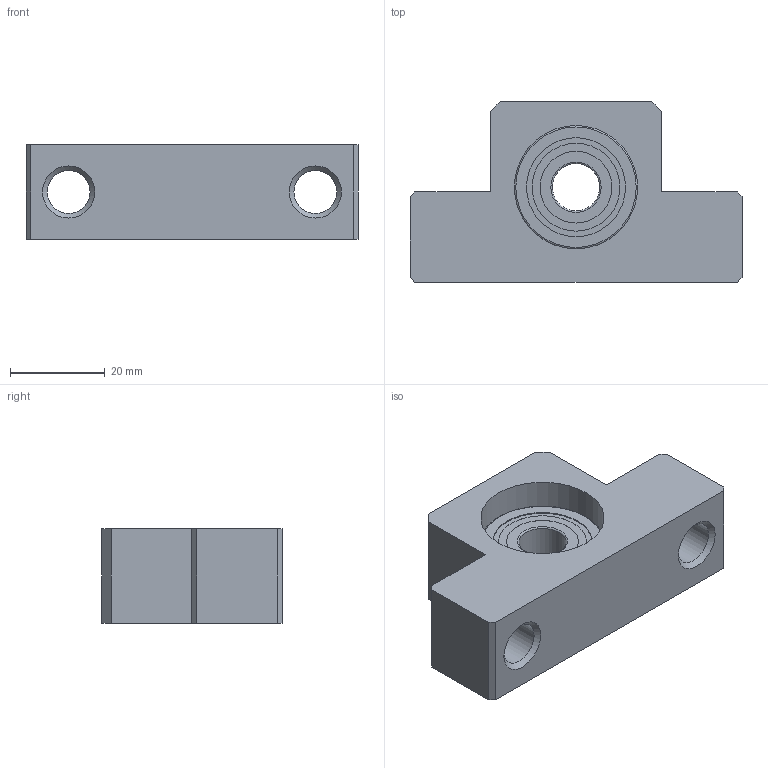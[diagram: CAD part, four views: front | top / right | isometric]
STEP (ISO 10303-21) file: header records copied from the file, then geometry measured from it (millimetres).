
FILE_DESCRIPTION(/* description */ ('STEP AP214'),/* implementation_level */ '2;1');
FILE_NAME(/* name */ 'EF12L',/* time_stamp */ '2026-09-17T13:09:16+02:00',/* author */ ('License CC BY-ND 4.0'),/* organization */ ('CADENAS'),/* preprocessor_version */ 'ST-DEVELOPER v20',/* originating_system */ 'PARTsolutions',/* authorisation */ ' ');
FILE_SCHEMA (('AUTOMOTIVE_DESIGN {1 0 10303 214 3 1 1}'));
Length unit declared in the file: millimetre
Products named in the file (3): EF12L; EF 12L Part1; EF 12L Part2
Assembly tree (2 placements, depth 2):
  EF12L
    EF 12L Part1
    EF 12L Part2
Bounding box: 70 x 38 x 20 mm (x, y, z)
Volume: 30648.1 mm3; surface area: 11397.5 mm2
Topology: 2 solids, 2 shells, 43 faces, 92 edges, 59 vertices
Faces by surface type: plane 24, cylinder 11, cone 4, torus 4
Full cylindrical faces by diameter (mm): 9 x2, 10 x1, 15.12 x2, 18.52 x2, 20.88 x2, 26 x2
Entity records: 1147 total; most frequent: DIRECTION 194, CARTESIAN_POINT 176, ORIENTED_EDGE 144, EDGE_LOOP 76, FACE_BOUND 76, AXIS2_PLACEMENT_3D 76, EDGE_CURVE 72, VERTEX_POINT 58
